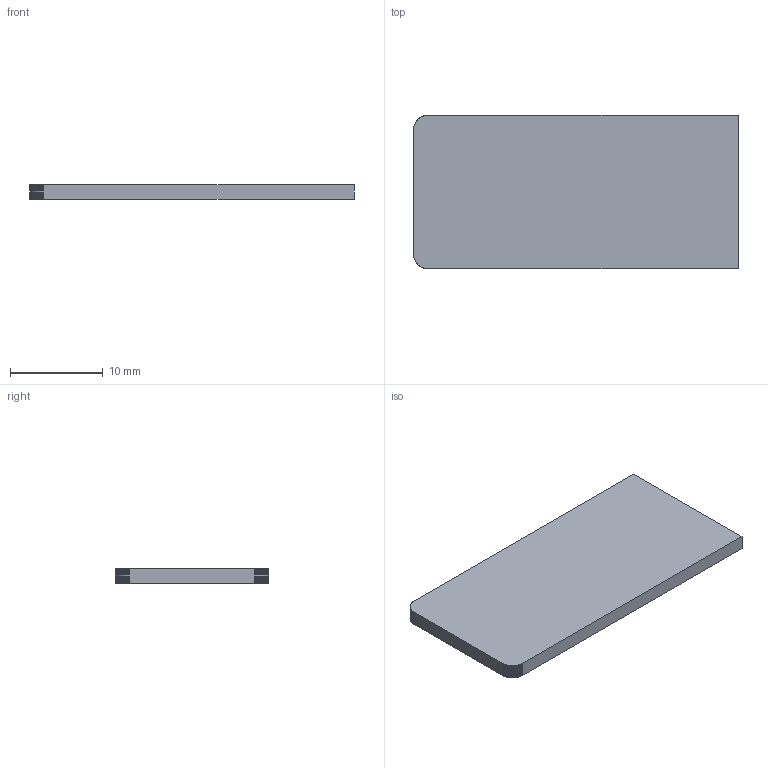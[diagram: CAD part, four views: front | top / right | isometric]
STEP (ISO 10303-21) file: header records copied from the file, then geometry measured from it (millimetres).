
FILE_DESCRIPTION(('Open CASCADE Model'),'2;1');
FILE_NAME('Open CASCADE Shape Model','2026-10-25T05:27:17',('Author'),( 'Open CASCADE'),'Open CASCADE STEP processor 7.8','Open CASCADE 7.8' ,'Unknown');
FILE_SCHEMA(('AUTOMOTIVE_DESIGN { 1 0 10303 214 1 1 1 1 }'));
Length unit declared in the file: millimetre
Products named in the file (1): Open CASCADE STEP translator 7.8 4
Bounding box: 35 x 16.5 x 1.6 mm (x, y, z)
Volume: 922.5 mm3; surface area: 1315.8 mm2
Topology: 1 solids, 1 shells, 54 faces, 156 edges, 104 vertices
Faces by surface type: plane 54
Entity records: 3778 total; most frequent: CARTESIAN_POINT 627, DIRECTION 578, LINE 468, VECTOR 468, ORIENTED_EDGE 312, PCURVE 312, DEFINITIONAL_REPRESENTATION 312, EDGE_CURVE 156
